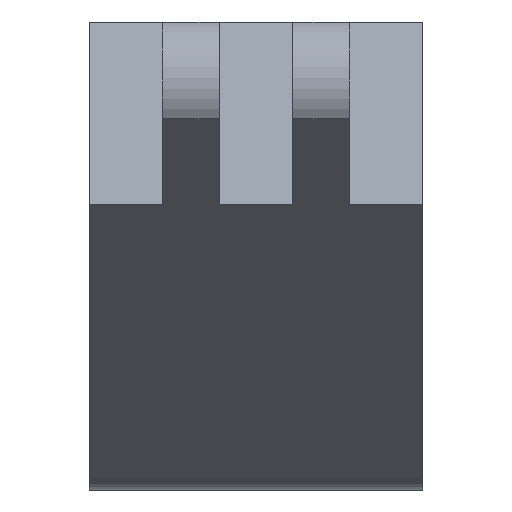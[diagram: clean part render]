
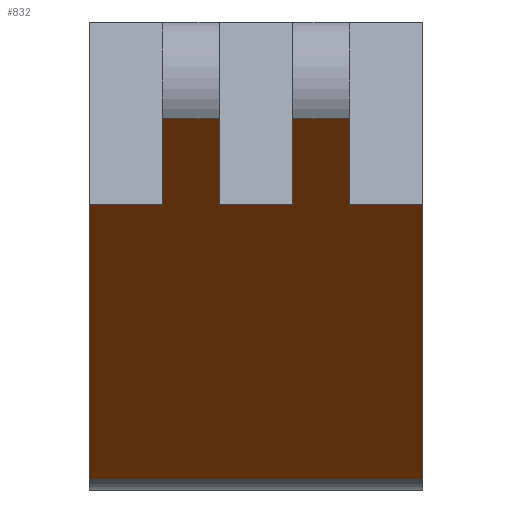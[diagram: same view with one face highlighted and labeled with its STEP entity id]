
A CAD part, left-side view. The second image highlights one B-rep face of the part: STEP entity #832.
In plain terms, the highlighted planar face has unit normal (-0.629, 0, -0.777).
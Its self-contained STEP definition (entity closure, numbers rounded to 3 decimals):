
#86=DIRECTION('',(-0.777,0.,0.629));
#87=VECTOR('',#86,56.15);
#88=CARTESIAN_POINT('',(58.377,-21.4,-58.684));
#89=LINE('',#88,#87);
#160=DIRECTION('',(-0.777,0.,0.629));
#161=VECTOR('',#160,56.15);
#162=CARTESIAN_POINT('',(58.377,21.4,-58.684));
#163=LINE('',#162,#161);
#288=DIRECTION('',(0.777,0.,-0.629));
#289=VECTOR('',#288,17.38);
#290=CARTESIAN_POINT('',(1.233,12.,-12.41));
#291=LINE('',#290,#289);
#295=DIRECTION('',(0.777,0.,-0.629));
#296=VECTOR('',#295,17.38);
#297=CARTESIAN_POINT('',(1.233,4.7,-12.41));
#298=LINE('',#297,#296);
#302=DIRECTION('',(0.,1.,0.));
#303=VECTOR('',#302,9.4);
#304=CARTESIAN_POINT('',(14.74,-4.7,-23.347));
#305=LINE('',#304,#303);
#309=DIRECTION('',(0.777,0.,-0.629));
#310=VECTOR('',#309,17.38);
#311=CARTESIAN_POINT('',(1.233,-4.7,-12.41));
#312=LINE('',#311,#310);
#316=DIRECTION('',(0.777,0.,-0.629));
#317=VECTOR('',#316,17.38);
#318=CARTESIAN_POINT('',(1.233,-12.,-12.41));
#319=LINE('',#318,#317);
#323=DIRECTION('',(0.,1.,0.));
#324=VECTOR('',#323,9.4);
#325=CARTESIAN_POINT('',(14.74,-21.4,-23.347));
#326=LINE('',#325,#324);
#330=DIRECTION('',(0.,1.,0.));
#331=VECTOR('',#330,42.8);
#332=CARTESIAN_POINT('',(58.377,-21.4,-58.684));
#333=LINE('',#332,#331);
#337=DIRECTION('',(0.,-1.,0.));
#338=VECTOR('',#337,9.4);
#339=CARTESIAN_POINT('',(14.74,21.4,-23.347));
#340=LINE('',#339,#338);
#352=DIRECTION('',(0.,1.,0.));
#353=VECTOR('',#352,7.3);
#354=CARTESIAN_POINT('',(1.233,-12.,-12.41));
#355=LINE('',#354,#353);
#383=DIRECTION('',(0.,1.,0.));
#384=VECTOR('',#383,7.3);
#385=CARTESIAN_POINT('',(1.233,4.7,-12.41));
#386=LINE('',#385,#384);
#509=CARTESIAN_POINT('',(58.377,-21.4,-58.684));
#510=VERTEX_POINT('',#509);
#517=CARTESIAN_POINT('',(58.377,21.4,-58.684));
#518=VERTEX_POINT('',#517);
#527=CARTESIAN_POINT('',(1.233,-4.7,-12.41));
#528=CARTESIAN_POINT('',(14.74,-4.7,-23.347));
#529=VERTEX_POINT('',#527);
#530=VERTEX_POINT('',#528);
#531=CARTESIAN_POINT('',(1.233,4.7,-12.41));
#532=CARTESIAN_POINT('',(14.74,4.7,-23.347));
#533=VERTEX_POINT('',#531);
#534=VERTEX_POINT('',#532);
#560=CARTESIAN_POINT('',(14.74,-12.,-23.347));
#562=VERTEX_POINT('',#560);
#565=CARTESIAN_POINT('',(14.74,-21.4,-23.347));
#566=VERTEX_POINT('',#565);
#573=CARTESIAN_POINT('',(1.233,-12.,-12.41));
#574=VERTEX_POINT('',#573);
#576=CARTESIAN_POINT('',(14.74,12.,-23.347));
#578=VERTEX_POINT('',#576);
#583=CARTESIAN_POINT('',(1.233,12.,-12.41));
#584=VERTEX_POINT('',#583);
#585=CARTESIAN_POINT('',(14.74,21.4,-23.347));
#586=VERTEX_POINT('',#585);
#806=CARTESIAN_POINT('',(58.377,-21.4,-58.684));
#807=DIRECTION('',(-0.629,0.,-0.777));
#808=DIRECTION('',(-0.777,0.,0.629));
#809=AXIS2_PLACEMENT_3D('',#806,#807,#808);
#810=PLANE('',#809);
#811=ORIENTED_EDGE('',*,*,#728,.F.);
#813=ORIENTED_EDGE('',*,*,#812,.F.);
#815=ORIENTED_EDGE('',*,*,#814,.T.);
#817=ORIENTED_EDGE('',*,*,#816,.F.);
#819=ORIENTED_EDGE('',*,*,#818,.F.);
#821=ORIENTED_EDGE('',*,*,#820,.F.);
#823=ORIENTED_EDGE('',*,*,#822,.T.);
#825=ORIENTED_EDGE('',*,*,#824,.F.);
#826=ORIENTED_EDGE('',*,*,#606,.F.);
#827=ORIENTED_EDGE('',*,*,#801,.T.);
#828=ORIENTED_EDGE('',*,*,#684,.T.);
#829=ORIENTED_EDGE('',*,*,#710,.T.);
#830=EDGE_LOOP('',(#811,#813,#815,#817,#819,#821,#823,#825,#826,#827,#828,
#829));
#831=FACE_OUTER_BOUND('',#830,.F.);
#606=EDGE_CURVE('',#510,#566,#89,.T.);
#684=EDGE_CURVE('',#518,#586,#163,.T.);
#710=EDGE_CURVE('',#586,#578,#340,.T.);
#728=EDGE_CURVE('',#584,#578,#291,.T.);
#801=EDGE_CURVE('',#510,#518,#333,.T.);
#812=EDGE_CURVE('',#533,#584,#386,.T.);
#814=EDGE_CURVE('',#533,#534,#298,.T.);
#816=EDGE_CURVE('',#530,#534,#305,.T.);
#818=EDGE_CURVE('',#529,#530,#312,.T.);
#820=EDGE_CURVE('',#574,#529,#355,.T.);
#822=EDGE_CURVE('',#574,#562,#319,.T.);
#824=EDGE_CURVE('',#566,#562,#326,.T.);
#832=ADVANCED_FACE('',(#831),#810,.T.);
